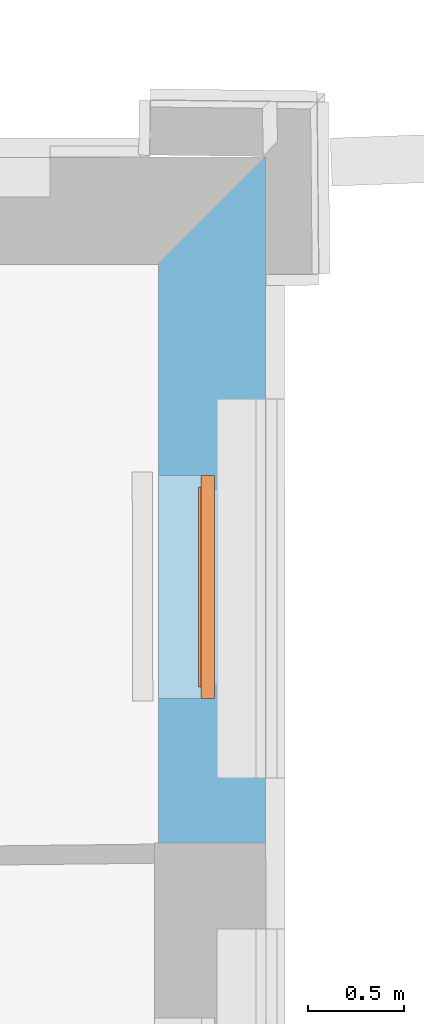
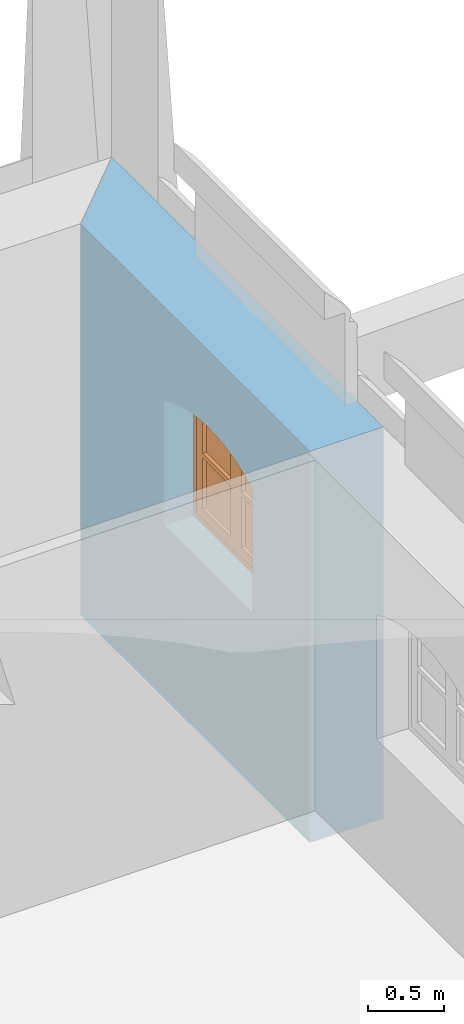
# One storey, part 109 of 196: 1 proxy, 1 opening, plus 1 element that does not belong to this part.
"""IFC2X3 building model written with IfcOpenShell, lengths in metres."""

from ifc_helpers import new_model, entity, si_unit, converted_unit, derived_unit, money_unit, direction, frame, origin_with_axes, place, context, subcontext, project, spatial, polyline, outline, extrude, faceted_brep, material, layer, layer_set, layer_usage, type_object, element, fill, save


model = new_model("IFC2X3")

# Units and contexts
model_context = context("Model", 3, precision=1e-05, world=origin_with_axes(), true_north=direction((0.0, 1.0)))
body_context = subcontext(model_context, "Body", "Model", "MODEL_VIEW")
ifc_project = project(units=[si_unit("LENGTHUNIT", "METRE"), si_unit("AREAUNIT", "SQUARE_METRE"), si_unit("VOLUMEUNIT", "CUBIC_METRE"), converted_unit("PLANEANGLEUNIT", "DEGREE", entity("IfcPlaneAngleMeasure", 0.0174532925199), si_unit("PLANEANGLEUNIT", "RADIAN"), dimensions=[0, 0, 0, 0, 0, 0, 0]), money_unit("EUR"), converted_unit("TIMEUNIT", "Year", entity("IfcTimeMeasure", 31556926.0), si_unit("TIMEUNIT", "SECOND"), dimensions=[0, 0, 1, 0, 0, 0, 0]), si_unit("MASSUNIT", "GRAM", prefix="KILO"), si_unit("THERMODYNAMICTEMPERATUREUNIT", "DEGREE_CELSIUS"), si_unit("LUMINOUSINTENSITYUNIT", "LUMEN"), si_unit("ENERGYUNIT", "JOULE", prefix="MEGA"), derived_unit("THERMALCONDUCTANCEUNIT", [(si_unit("POWERUNIT", "WATT"), 1), (si_unit("LENGTHUNIT", "METRE"), -1), (si_unit("THERMODYNAMICTEMPERATUREUNIT", "KELVIN"), -1)]), derived_unit("SPECIFICHEATCAPACITYUNIT", [(si_unit("ENERGYUNIT", "JOULE"), 1), (si_unit("MASSUNIT", "GRAM", prefix="KILO"), -1), (si_unit("THERMODYNAMICTEMPERATUREUNIT", "KELVIN"), -1)]), derived_unit("MASSDENSITYUNIT", [(si_unit("MASSUNIT", "GRAM", prefix="KILO"), 1), (si_unit("VOLUMEUNIT", "CUBIC_METRE"), -1)])], contexts=[model_context])

# Site, building, storey
site_placement = place(None, origin_with_axes())
site = spatial("IfcSite", under=ifc_project, at=site_placement, Name="Gelände", CompositionType="ELEMENT")
building_placement = place(site_placement, origin_with_axes())
building = spatial("IfcBuilding", under=site, at=building_placement, Name="Gebäude", CompositionType="ELEMENT")
storey_placement = place(building_placement, frame((0.0, 0.0, -3.0), z_axis=(0.0, 0.0, 1.0), x_axis=(1.0, 0.0, 0.0)))
storey = spatial("IfcBuildingStorey", under=building, at=storey_placement, Name="KELLERGESCHOSS", CompositionType="ELEMENT", Elevation=-3.0)

# Wall, opening, proxy
ifc_material = material(Name="05_ALLGEMEIN - TRAGENDE BAUTEILE")
ifc_layer = layer(ifc_material, 0.56, ventilated="UNKNOWN")
ifc_layer_set = layer_set([ifc_layer], Name="05_ALLGEMEIN - TRAGENDE BAUTEILE 0.56")
ifc_layer_usage = layer_usage(ifc_layer_set, "AXIS2", "NEGATIVE", 0.56)
wall_type = type_object("IfcWallType", Name="05_ALLGEMEIN - TRAGENDE BAUTEILE 560", PredefinedType="ELEMENTEDWALL")
wall_placement = place(storey_placement, frame((31.6751488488, 25.5895530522, -0.36), z_axis=(0.0, 0.0, 1.0), x_axis=(-0.000336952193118, 0.999999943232, 0.0)))
wall = element("IfcWallStandardCase", 1, at=wall_placement, inside=storey, type_object=wall_type, material=ifc_layer_usage, Name="Wand-038", ObjectType="ELEMENTEDWALL", context=body_context, shape_type="SweptSolid", body=[
    extrude(outline(polyline([(0.0, 0.0), (3.57874595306, 0.0), (3.01852051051, 0.56), (0.0, 0.56), (0.0, 0.0)])), origin_with_axes(), (0.0, 0.0, 1.0), 3.15),
])
opening_placement = place(wall_placement, frame((1.33445511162, 0.0, 1.39579666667), z_axis=(0.0, 0.0, 1.0), x_axis=(1.0, 0.0, 0.0)))
opening = element("IfcOpeningElement", 2, at=opening_placement, cuts=wall, Name="Fenster-015", context=body_context, shape_type="SweptSolid", body=[
    extrude(outline(polyline([(0.581905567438, 0.0), (0.581905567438, 1.0), (0.471737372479, 1.04926610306), (0.357452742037, 1.08803726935), (0.240048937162, 1.11597517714), (0.120550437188, 1.13283603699), (0.0, 1.13847271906), (-0.120550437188, 1.13283603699), (-0.240048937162, 1.11597517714), (-0.357452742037, 1.08803726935), (-0.471737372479, 1.04926610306), (-0.581905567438, 1.0), (-0.581905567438, 0.0), (0.581905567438, 0.0)])), frame((0.0, 0.266646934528, 0.0), z_axis=(0.0, -1.0, 0.0), x_axis=(1.0, 0.0, 0.0)), (0.0, 0.0, -1.0), 0.853353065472),
    extrude(outline(polyline([(-0.511905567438, 0.0), (-0.511905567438, -0.956074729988), (-0.389248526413, -1.00481559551), (-0.262049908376, -1.04004247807), (-0.131793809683, -1.0613443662), (0.0, -1.06847271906), (0.131793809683, -1.0613443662), (0.262049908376, -1.04004247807), (0.389248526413, -1.00481559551), (0.511905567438, -0.956074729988), (0.511905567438, 0.0), (-0.511905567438, 0.0)])), frame((0.0, 0.266646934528, 0.0), z_axis=(0.0, 1.0, 0.0), x_axis=(1.0, 0.0, 0.0)), (0.0, 0.0, -1.0), 0.826646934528),
])
building_element_proxy_type = type_object("IfcBuildingElementProxyType", Name="F Segment-Abschluss 2-Fl 25", PredefinedType="NOTDEFINED")
proxy_placement = place(opening_placement, frame((-0.581905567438, 0.0, 0.0), z_axis=(0.0, 0.0, 1.0), x_axis=(1.0, 0.0, 0.0)))
proxy = element("IfcBuildingElementProxy", 3, at=proxy_placement, inside=storey, type_object=building_element_proxy_type, Name="Fenster-015", context=body_context, shape_type="Brep", body=[
    faceted_brep([(0.0, 0.266646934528, 0.0), (0.0, 0.301646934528, 0.0), (0.08, 0.301646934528, 0.08), (0.08, 0.266646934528, 0.08), (0.0, 0.266646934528, 1.0), (0.0, 0.301646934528, 1.0), (0.08, 0.301646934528, 0.949656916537), (0.08, 0.266646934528, 0.949656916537)], [[[0, 1, 2, 3]], [[4, 5, 1, 0]], [[1, 5, 6, 2]], [[3, 2, 6, 7]], [[0, 3, 7, 4]], [[7, 6, 5, 4]]]),
    faceted_brep([(1.16381113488, 0.266646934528, 0.0), (1.08381113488, 0.266646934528, 0.08), (1.08381113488, 0.301646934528, 0.08), (1.16381113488, 0.301646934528, 0.0), (1.16381113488, 0.266646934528, 1.0), (1.08381113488, 0.266646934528, 0.949656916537), (1.08381113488, 0.301646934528, 0.949656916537), (1.16381113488, 0.301646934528, 1.0)], [[[0, 1, 2, 3]], [[0, 4, 5, 1]], [[1, 5, 6, 2]], [[3, 2, 6, 7]], [[4, 0, 3, 7]], [[5, 4, 7, 6]]]),
    faceted_brep([(0.0, 0.266646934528, 0.0), (0.0, 0.301646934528, 0.0), (1.16381113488, 0.301646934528, 0.0), (1.16381113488, 0.266646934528, 0.0), (0.08, 0.266646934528, 0.08), (0.08, 0.301646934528, 0.08), (1.08381113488, 0.301646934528, 0.08), (1.08381113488, 0.266646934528, 0.08)], [[[0, 1, 2, 3]], [[4, 5, 1, 0]], [[1, 5, 6, 2]], [[3, 2, 6, 7]], [[0, 3, 7, 4]], [[7, 6, 5, 4]]]),
    faceted_brep([(1.08391113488, 0.266646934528, 0.949656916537), (1.08391113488, 0.301646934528, 0.949656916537), (1.16381113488, 0.301646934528, 1.0), (1.16381113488, 0.266646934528, 1.0), (1.08381113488, 0.266646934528, 0.949656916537), (1.08381113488, 0.301646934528, 0.949656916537), (0.963421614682, 0.301646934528, 0.996854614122), (0.838688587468, 0.301646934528, 1.03095639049), (0.711032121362, 0.301646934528, 1.05157400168), (0.581905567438, 0.301646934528, 1.05847271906), (0.581905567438, 0.301646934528, 1.05857271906), (0.581905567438, 0.301646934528, 1.13847271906), (0.702456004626, 0.301646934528, 1.13283603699), (0.8219545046, 0.301646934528, 1.11597517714), (0.939358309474, 0.301646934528, 1.08803726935), (1.05364293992, 0.301646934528, 1.04926610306), (1.05364293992, 0.266646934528, 1.04926610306), (0.939358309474, 0.266646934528, 1.08803726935), (0.8219545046, 0.266646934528, 1.11597517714), (0.702456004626, 0.266646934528, 1.13283603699), (0.581905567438, 0.266646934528, 1.13847271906), (0.581905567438, 0.266646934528, 1.05857271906), (0.581905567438, 0.266646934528, 1.05847271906), (0.711032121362, 0.266646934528, 1.05157400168), (0.838688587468, 0.266646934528, 1.03095639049), (0.963421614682, 0.266646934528, 0.996854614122)], [[[0, 1, 2, 3]], [[4, 5, 1, 0]], [[1, 5, 6, 7, 8, 9, 10, 11, 12, 13, 14, 15, 2]], [[3, 2, 15, 16]], [[0, 3, 16, 17, 18, 19, 20, 21, 22, 23, 24, 25, 4]], [[25, 6, 5, 4]], [[24, 7, 6, 25]], [[23, 8, 7, 24]], [[22, 9, 8, 23]], [[21, 10, 9, 22]], [[20, 11, 10, 21]], [[19, 12, 11, 20]], [[18, 13, 12, 19]], [[17, 14, 13, 18]], [[16, 15, 14, 17]]]),
    faceted_brep([(0.0799, 0.266646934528, 0.949656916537), (0.0, 0.266646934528, 1.0), (0.0, 0.301646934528, 1.0), (0.0799, 0.301646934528, 0.949656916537), (0.08, 0.266646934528, 0.949656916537), (0.200389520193, 0.266646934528, 0.996854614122), (0.325122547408, 0.266646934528, 1.03095639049), (0.452779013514, 0.266646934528, 1.05157400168), (0.581905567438, 0.266646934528, 1.05847271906), (0.581905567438, 0.266646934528, 1.05857271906), (0.581905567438, 0.266646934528, 1.13847271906), (0.46135513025, 0.266646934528, 1.13283603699), (0.341856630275, 0.266646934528, 1.11597517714), (0.224452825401, 0.266646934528, 1.08803726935), (0.110168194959, 0.266646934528, 1.04926610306), (0.110168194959, 0.301646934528, 1.04926610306), (0.224452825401, 0.301646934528, 1.08803726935), (0.341856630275, 0.301646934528, 1.11597517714), (0.46135513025, 0.301646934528, 1.13283603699), (0.581905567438, 0.301646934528, 1.13847271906), (0.581905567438, 0.301646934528, 1.05857271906), (0.581905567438, 0.301646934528, 1.05847271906), (0.452779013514, 0.301646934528, 1.05157400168), (0.325122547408, 0.301646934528, 1.03095639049), (0.200389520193, 0.301646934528, 0.996854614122), (0.08, 0.301646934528, 0.949656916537)], [[[0, 1, 2, 3]], [[0, 4, 5, 6, 7, 8, 9, 10, 11, 12, 13, 14, 1]], [[1, 14, 15, 2]], [[3, 2, 15, 16, 17, 18, 19, 20, 21, 22, 23, 24, 25]], [[4, 0, 3, 25]], [[5, 4, 25, 24]], [[6, 5, 24, 23]], [[7, 6, 23, 22]], [[8, 7, 22, 21]], [[9, 8, 21, 20]], [[10, 9, 20, 19]], [[11, 10, 19, 18]], [[12, 11, 18, 17]], [[13, 12, 17, 16]], [[14, 13, 16, 15]]]),
    faceted_brep([(0.0, 0.301646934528, 0.0), (0.0, 0.336646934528, 0.0), (0.08, 0.336646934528, 0.08), (0.08, 0.301646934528, 0.08), (0.0, 0.301646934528, 1.0), (0.0, 0.336646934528, 1.0), (0.08, 0.336646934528, 0.949656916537), (0.08, 0.301646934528, 0.949656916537)], [[[0, 1, 2, 3]], [[4, 5, 1, 0]], [[1, 5, 6, 2]], [[3, 2, 6, 7]], [[0, 3, 7, 4]], [[7, 6, 5, 4]]]),
    faceted_brep([(1.16381113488, 0.301646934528, 0.0), (1.08381113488, 0.301646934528, 0.08), (1.08381113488, 0.336646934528, 0.08), (1.16381113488, 0.336646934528, 0.0), (1.16381113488, 0.301646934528, 1.0), (1.08381113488, 0.301646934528, 0.949656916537), (1.08381113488, 0.336646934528, 0.949656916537), (1.16381113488, 0.336646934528, 1.0)], [[[0, 1, 2, 3]], [[0, 4, 5, 1]], [[1, 5, 6, 2]], [[3, 2, 6, 7]], [[4, 0, 3, 7]], [[5, 4, 7, 6]]]),
    faceted_brep([(0.0, 0.301646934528, 0.0), (0.0, 0.336646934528, 0.0), (1.16381113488, 0.336646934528, 0.0), (1.16381113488, 0.301646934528, 0.0), (0.08, 0.301646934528, 0.08), (0.08, 0.336646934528, 0.08), (1.08381113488, 0.336646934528, 0.08), (1.08381113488, 0.301646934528, 0.08)], [[[0, 1, 2, 3]], [[4, 5, 1, 0]], [[1, 5, 6, 2]], [[3, 2, 6, 7]], [[0, 3, 7, 4]], [[7, 6, 5, 4]]]),
    faceted_brep([(1.08391113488, 0.301646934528, 0.949656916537), (1.08391113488, 0.336646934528, 0.949656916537), (1.16381113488, 0.336646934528, 1.0), (1.16381113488, 0.301646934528, 1.0), (1.08381113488, 0.301646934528, 0.949656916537), (1.08381113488, 0.336646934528, 0.949656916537), (0.963421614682, 0.336646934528, 0.996854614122), (0.838688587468, 0.336646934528, 1.03095639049), (0.711032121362, 0.336646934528, 1.05157400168), (0.581905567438, 0.336646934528, 1.05847271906), (0.581905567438, 0.336646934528, 1.05857271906), (0.581905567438, 0.336646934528, 1.13847271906), (0.702456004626, 0.336646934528, 1.13283603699), (0.8219545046, 0.336646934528, 1.11597517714), (0.939358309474, 0.336646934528, 1.08803726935), (1.05364293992, 0.336646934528, 1.04926610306), (1.05364293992, 0.301646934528, 1.04926610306), (0.939358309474, 0.301646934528, 1.08803726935), (0.8219545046, 0.301646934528, 1.11597517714), (0.702456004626, 0.301646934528, 1.13283603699), (0.581905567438, 0.301646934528, 1.13847271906), (0.581905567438, 0.301646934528, 1.05857271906), (0.581905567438, 0.301646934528, 1.05847271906), (0.711032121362, 0.301646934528, 1.05157400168), (0.838688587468, 0.301646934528, 1.03095639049), (0.963421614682, 0.301646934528, 0.996854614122)], [[[0, 1, 2, 3]], [[4, 5, 1, 0]], [[1, 5, 6, 7, 8, 9, 10, 11, 12, 13, 14, 15, 2]], [[3, 2, 15, 16]], [[0, 3, 16, 17, 18, 19, 20, 21, 22, 23, 24, 25, 4]], [[25, 6, 5, 4]], [[24, 7, 6, 25]], [[23, 8, 7, 24]], [[22, 9, 8, 23]], [[21, 10, 9, 22]], [[20, 11, 10, 21]], [[19, 12, 11, 20]], [[18, 13, 12, 19]], [[17, 14, 13, 18]], [[16, 15, 14, 17]]]),
    faceted_brep([(0.0799, 0.301646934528, 0.949656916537), (0.0, 0.301646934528, 1.0), (0.0, 0.336646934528, 1.0), (0.0799, 0.336646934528, 0.949656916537), (0.08, 0.301646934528, 0.949656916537), (0.200389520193, 0.301646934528, 0.996854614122), (0.325122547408, 0.301646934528, 1.03095639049), (0.452779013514, 0.301646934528, 1.05157400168), (0.581905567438, 0.301646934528, 1.05847271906), (0.581905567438, 0.301646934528, 1.05857271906), (0.581905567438, 0.301646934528, 1.13847271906), (0.46135513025, 0.301646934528, 1.13283603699), (0.341856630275, 0.301646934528, 1.11597517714), (0.224452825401, 0.301646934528, 1.08803726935), (0.110168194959, 0.301646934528, 1.04926610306), (0.110168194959, 0.336646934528, 1.04926610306), (0.224452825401, 0.336646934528, 1.08803726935), (0.341856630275, 0.336646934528, 1.11597517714), (0.46135513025, 0.336646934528, 1.13283603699), (0.581905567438, 0.336646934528, 1.13847271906), (0.581905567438, 0.336646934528, 1.05857271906), (0.581905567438, 0.336646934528, 1.05847271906), (0.452779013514, 0.336646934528, 1.05157400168), (0.325122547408, 0.336646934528, 1.03095639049), (0.200389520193, 0.336646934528, 0.996854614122), (0.08, 0.336646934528, 0.949656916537)], [[[0, 1, 2, 3]], [[0, 4, 5, 6, 7, 8, 9, 10, 11, 12, 13, 14, 1]], [[1, 14, 15, 2]], [[3, 2, 15, 16, 17, 18, 19, 20, 21, 22, 23, 24, 25]], [[4, 0, 3, 25]], [[5, 4, 25, 24]], [[6, 5, 24, 23]], [[7, 6, 23, 22]], [[8, 7, 22, 21]], [[9, 8, 21, 20]], [[10, 9, 20, 19]], [[11, 10, 19, 18]], [[12, 11, 18, 17]], [[13, 12, 17, 16]], [[14, 13, 16, 15]]]),
    faceted_brep([(0.06, 0.336646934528, 0.06), (0.06, 0.349646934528, 0.06), (0.14, 0.349646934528, 0.14), (0.14, 0.336646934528, 0.14), (0.06, 0.336646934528, 0.962455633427), (0.06, 0.349646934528, 0.962455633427), (0.14, 0.349646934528, 0.910337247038), (0.14, 0.336646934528, 0.910337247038)], [[[0, 1, 2, 3]], [[4, 5, 1, 0]], [[1, 5, 6, 2]], [[3, 2, 6, 7]], [[0, 3, 7, 4]], [[7, 6, 5, 4]]]),
    faceted_brep([(0.571905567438, 0.336646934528, 0.06), (0.571905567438, 0.349646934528, 0.06), (0.571905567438, 0.349646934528, 1.07843213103), (0.571905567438, 0.336646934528, 1.07843213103), (0.511905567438, 0.336646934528, 0.14), (0.511905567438, 0.349646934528, 0.14), (0.511905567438, 0.349646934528, 0.99634385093), (0.511905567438, 0.336646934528, 0.99634385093)], [[[0, 1, 2, 3]], [[4, 5, 1, 0]], [[1, 5, 6, 2]], [[3, 2, 6, 7]], [[0, 3, 7, 4]], [[7, 6, 5, 4]]]),
    faceted_brep([(0.06, 0.336646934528, 0.06), (0.06, 0.349646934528, 0.06), (0.08, 0.349646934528, 0.06), (0.08, 0.336646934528, 0.06), (0.14, 0.336646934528, 0.14), (0.14, 0.349646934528, 0.14), (0.511905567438, 0.349646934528, 0.14), (0.571905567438, 0.349646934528, 0.06), (0.571905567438, 0.336646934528, 0.06), (0.511905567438, 0.336646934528, 0.14)], [[[0, 1, 2, 3]], [[4, 5, 1, 0]], [[1, 5, 6, 7, 2]], [[3, 2, 7, 8]], [[0, 3, 8, 9, 4]], [[9, 6, 5, 4]], [[8, 7, 6, 9]]]),
    faceted_brep([(0.08, 0.336646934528, 0.949656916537), (0.08, 0.349646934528, 0.949656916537), (0.14, 0.349646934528, 0.910337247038), (0.14, 0.336646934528, 0.910337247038), (0.06, 0.336646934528, 0.962455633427), (0.06, 0.349646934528, 0.962455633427), (0.157629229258, 0.349646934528, 1.0031058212), (0.258385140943, 0.349646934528, 1.0352329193), (0.361525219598, 0.349646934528, 1.05860016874), (0.466289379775, 0.349646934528, 1.07303536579), (0.571905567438, 0.349646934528, 1.07843213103), (0.511905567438, 0.349646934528, 0.99634385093), (0.41656313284, 0.349646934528, 0.98654453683), (0.322365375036, 0.349646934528, 0.968853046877), (0.229964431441, 0.349646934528, 0.943391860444), (0.229964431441, 0.336646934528, 0.943391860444), (0.322365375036, 0.336646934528, 0.968853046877), (0.41656313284, 0.336646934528, 0.98654453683), (0.511905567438, 0.336646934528, 0.99634385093), (0.571905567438, 0.336646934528, 1.07843213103), (0.466289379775, 0.336646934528, 1.07303536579), (0.361525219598, 0.336646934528, 1.05860016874), (0.258385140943, 0.336646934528, 1.0352329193), (0.157629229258, 0.336646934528, 1.0031058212)], [[[0, 1, 2, 3]], [[4, 5, 1, 0]], [[1, 5, 6, 7, 8, 9, 10, 11, 12, 13, 14, 2]], [[3, 2, 14, 15]], [[0, 3, 15, 16, 17, 18, 19, 20, 21, 22, 23, 4]], [[23, 6, 5, 4]], [[22, 7, 6, 23]], [[21, 8, 7, 22]], [[20, 9, 8, 21]], [[19, 10, 9, 20]], [[18, 11, 10, 19]], [[17, 12, 11, 18]], [[16, 13, 12, 17]], [[15, 14, 13, 16]]]),
    faceted_brep([(0.08, 0.279646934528, 0.08), (0.08, 0.336646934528, 0.08), (0.14, 0.336646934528, 0.14), (0.14, 0.279646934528, 0.14), (0.08, 0.279646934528, 0.949656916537), (0.08, 0.336646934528, 0.949656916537), (0.14, 0.336646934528, 0.910337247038), (0.14, 0.279646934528, 0.910337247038)], [[[0, 1, 2, 3]], [[4, 5, 1, 0]], [[1, 5, 6, 2]], [[3, 2, 6, 7]], [[0, 3, 7, 4]], [[7, 6, 5, 4]]]),
    faceted_brep([(0.591905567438, 0.279646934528, 0.08), (0.591905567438, 0.336646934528, 0.08), (0.591905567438, 0.336646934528, 1.05843146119), (0.591905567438, 0.279646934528, 1.05843146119), (0.511905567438, 0.279646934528, 0.14), (0.511905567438, 0.336646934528, 0.14), (0.511905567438, 0.336646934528, 0.99634385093), (0.511905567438, 0.279646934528, 0.99634385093)], [[[0, 1, 2, 3]], [[4, 5, 1, 0]], [[1, 5, 6, 2]], [[3, 2, 6, 7]], [[0, 3, 7, 4]], [[7, 6, 5, 4]]]),
    faceted_brep([(0.08, 0.279646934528, 0.08), (0.08, 0.336646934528, 0.08), (0.571905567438, 0.336646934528, 0.08), (0.571905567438, 0.279646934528, 0.08), (0.14, 0.279646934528, 0.14), (0.14, 0.336646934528, 0.14), (0.511905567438, 0.336646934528, 0.14), (0.591905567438, 0.336646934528, 0.08), (0.591905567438, 0.279646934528, 0.08), (0.511905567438, 0.279646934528, 0.14)], [[[0, 1, 2, 3]], [[4, 5, 1, 0]], [[1, 5, 6, 7, 2]], [[3, 2, 7, 8]], [[0, 3, 8, 9, 4]], [[9, 6, 5, 4]], [[8, 7, 6, 9]]]),
    faceted_brep([(0.08, 0.279646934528, 0.949656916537), (0.08, 0.336646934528, 0.949656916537), (0.14, 0.336646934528, 0.910337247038), (0.14, 0.279646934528, 0.910337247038), (0.177804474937, 0.279646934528, 0.989116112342), (0.177804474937, 0.336646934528, 0.989116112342), (0.278669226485, 0.336646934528, 1.01992269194), (0.381830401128, 0.336646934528, 1.04184335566), (0.48650675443, 0.336646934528, 1.05471209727), (0.591905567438, 0.336646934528, 1.05843146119), (0.511905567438, 0.336646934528, 0.99634385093), (0.41656313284, 0.336646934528, 0.98654453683), (0.322365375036, 0.336646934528, 0.968853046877), (0.229964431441, 0.336646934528, 0.943391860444), (0.229964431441, 0.279646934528, 0.943391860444), (0.322365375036, 0.279646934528, 0.968853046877), (0.41656313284, 0.279646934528, 0.98654453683), (0.511905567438, 0.279646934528, 0.99634385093), (0.591905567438, 0.279646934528, 1.05843146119), (0.48650675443, 0.279646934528, 1.05471209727), (0.381830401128, 0.279646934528, 1.04184335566), (0.278669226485, 0.279646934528, 1.01992269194)], [[[0, 1, 2, 3]], [[4, 5, 1, 0]], [[1, 5, 6, 7, 8, 9, 10, 11, 12, 13, 2]], [[3, 2, 13, 14]], [[0, 3, 14, 15, 16, 17, 18, 19, 20, 21, 4]], [[21, 6, 5, 4]], [[20, 7, 6, 21]], [[19, 8, 7, 20]], [[18, 9, 8, 19]], [[17, 10, 9, 18]], [[16, 11, 10, 17]], [[15, 12, 11, 16]], [[14, 13, 12, 15]]]),
    faceted_brep([(0.14, 0.309646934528, 0.14), (0.14, 0.319646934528, 0.14), (0.511905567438, 0.319646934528, 0.14), (0.511905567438, 0.309646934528, 0.14), (0.14, 0.309646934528, 0.910337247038), (0.14, 0.319646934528, 0.910337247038), (0.229964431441, 0.319646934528, 0.943391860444), (0.322365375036, 0.319646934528, 0.968853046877), (0.41656313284, 0.319646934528, 0.98654453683), (0.511905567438, 0.319646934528, 0.99634385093), (0.511905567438, 0.309646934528, 0.99634385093), (0.41656313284, 0.309646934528, 0.98654453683), (0.322365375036, 0.309646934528, 0.968853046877), (0.229964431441, 0.309646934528, 0.943391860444)], [[[0, 1, 2, 3]], [[4, 5, 1, 0]], [[1, 5, 6, 7, 8, 9, 2]], [[3, 2, 9, 10]], [[0, 3, 10, 11, 12, 13, 4]], [[13, 6, 5, 4]], [[12, 7, 6, 13]], [[11, 8, 7, 12]], [[10, 9, 8, 11]]]),
    faceted_brep([(0.14, 0.279646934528, 0.550671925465), (0.14, 0.314646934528, 0.550671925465), (0.511905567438, 0.314646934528, 0.550671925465), (0.511905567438, 0.279646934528, 0.550671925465), (0.14, 0.279646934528, 0.585671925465), (0.14, 0.314646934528, 0.585671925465), (0.511905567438, 0.314646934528, 0.585671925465), (0.511905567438, 0.279646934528, 0.585671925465)], [[[0, 1, 2, 3]], [[4, 5, 1, 0]], [[1, 5, 6, 2]], [[3, 2, 6, 7]], [[0, 3, 7, 4]], [[7, 6, 5, 4]]]),
    faceted_brep([(0.14, 0.314646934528, 0.550671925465), (0.14, 0.349646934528, 0.550671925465), (0.511905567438, 0.349646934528, 0.550671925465), (0.511905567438, 0.314646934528, 0.550671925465), (0.14, 0.314646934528, 0.585671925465), (0.14, 0.349646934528, 0.585671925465), (0.511905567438, 0.349646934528, 0.585671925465), (0.511905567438, 0.314646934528, 0.585671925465)], [[[0, 1, 2, 3]], [[4, 5, 1, 0]], [[1, 5, 6, 2]], [[3, 2, 6, 7]], [[0, 3, 7, 4]], [[7, 6, 5, 4]]]),
    faceted_brep([(1.10381113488, 0.336646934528, 0.06), (1.02381113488, 0.336646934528, 0.14), (1.02381113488, 0.349646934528, 0.14), (1.10381113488, 0.349646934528, 0.06), (1.10381113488, 0.336646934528, 0.962455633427), (1.02381113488, 0.336646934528, 0.910337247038), (1.02381113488, 0.349646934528, 0.910337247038), (1.10381113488, 0.349646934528, 0.962455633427)], [[[0, 1, 2, 3]], [[0, 4, 5, 1]], [[1, 5, 6, 2]], [[3, 2, 6, 7]], [[4, 0, 3, 7]], [[5, 4, 7, 6]]]),
    faceted_brep([(0.571905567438, 0.336646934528, 0.06), (0.571905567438, 0.336646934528, 1.07843213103), (0.571905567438, 0.349646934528, 1.07843213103), (0.571905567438, 0.349646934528, 0.06), (0.651905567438, 0.336646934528, 0.14), (0.651905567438, 0.336646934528, 0.99634385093), (0.651905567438, 0.349646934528, 0.99634385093), (0.651905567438, 0.349646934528, 0.14)], [[[0, 1, 2, 3]], [[0, 4, 5, 1]], [[1, 5, 6, 2]], [[3, 2, 6, 7]], [[4, 0, 3, 7]], [[5, 4, 7, 6]]]),
    faceted_brep([(1.10381113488, 0.336646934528, 0.06), (1.08381113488, 0.336646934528, 0.06), (1.08381113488, 0.349646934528, 0.06), (1.10381113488, 0.349646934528, 0.06), (1.02381113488, 0.336646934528, 0.14), (0.651905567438, 0.336646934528, 0.14), (0.571905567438, 0.336646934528, 0.06), (0.591905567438, 0.336646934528, 0.06), (0.591905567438, 0.349646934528, 0.06), (0.571905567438, 0.349646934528, 0.06), (0.651905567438, 0.349646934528, 0.14), (1.02381113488, 0.349646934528, 0.14)], [[[0, 1, 2, 3]], [[0, 4, 5, 6, 7, 1]], [[1, 7, 8, 2]], [[3, 2, 8, 9, 10, 11]], [[4, 0, 3, 11]], [[5, 4, 11, 10]], [[6, 5, 10, 9]], [[7, 6, 9, 8]]]),
    faceted_brep([(1.08381113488, 0.336646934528, 0.949656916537), (1.02381113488, 0.336646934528, 0.910337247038), (1.02381113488, 0.349646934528, 0.910337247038), (1.08381113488, 0.349646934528, 0.949656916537), (1.10381113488, 0.336646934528, 0.962455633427), (1.00242434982, 0.336646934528, 1.0044773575), (0.897699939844, 0.336646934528, 1.0373087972), (0.79046909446, 0.336646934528, 1.06068937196), (0.681582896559, 0.336646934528, 1.07443351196), (0.571905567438, 0.336646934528, 1.07843213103), (0.651905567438, 0.336646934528, 0.99634385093), (0.747248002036, 0.336646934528, 0.98654453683), (0.841445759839, 0.336646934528, 0.968853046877), (0.933846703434, 0.336646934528, 0.943391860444), (0.933846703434, 0.349646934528, 0.943391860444), (0.841445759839, 0.349646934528, 0.968853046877), (0.747248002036, 0.349646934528, 0.98654453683), (0.651905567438, 0.349646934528, 0.99634385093), (0.571905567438, 0.349646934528, 1.07843213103), (0.681582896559, 0.349646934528, 1.07443351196), (0.79046909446, 0.349646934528, 1.06068937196), (0.897699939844, 0.349646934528, 1.0373087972), (1.00242434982, 0.349646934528, 1.0044773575), (1.10381113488, 0.349646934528, 0.962455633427)], [[[0, 1, 2, 3]], [[0, 4, 5, 6, 7, 8, 9, 10, 11, 12, 13, 1]], [[1, 13, 14, 2]], [[3, 2, 14, 15, 16, 17, 18, 19, 20, 21, 22, 23]], [[4, 0, 3, 23]], [[5, 4, 23, 22]], [[6, 5, 22, 21]], [[7, 6, 21, 20]], [[8, 7, 20, 19]], [[9, 8, 19, 18]], [[10, 9, 18, 17]], [[11, 10, 17, 16]], [[12, 11, 16, 15]], [[13, 12, 15, 14]]]),
    faceted_brep([(1.08381113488, 0.279646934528, 0.08), (1.02381113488, 0.279646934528, 0.14), (1.02381113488, 0.336646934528, 0.14), (1.08381113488, 0.336646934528, 0.08), (1.08381113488, 0.279646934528, 0.949656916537), (1.02381113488, 0.279646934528, 0.910337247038), (1.02381113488, 0.336646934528, 0.910337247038), (1.08381113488, 0.336646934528, 0.949656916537)], [[[0, 1, 2, 3]], [[0, 4, 5, 1]], [[1, 5, 6, 2]], [[3, 2, 6, 7]], [[4, 0, 3, 7]], [[5, 4, 7, 6]]]),
    faceted_brep([(0.591905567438, 0.279646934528, 0.08), (0.591905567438, 0.279646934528, 1.05843146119), (0.591905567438, 0.336646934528, 1.05843146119), (0.591905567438, 0.336646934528, 0.08), (0.651905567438, 0.279646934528, 0.14), (0.651905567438, 0.279646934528, 0.99634385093), (0.651905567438, 0.336646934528, 0.99634385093), (0.651905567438, 0.336646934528, 0.14)], [[[0, 1, 2, 3]], [[0, 4, 5, 1]], [[1, 5, 6, 2]], [[3, 2, 6, 7]], [[4, 0, 3, 7]], [[5, 4, 7, 6]]]),
    faceted_brep([(1.08381113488, 0.279646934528, 0.08), (0.591905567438, 0.279646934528, 0.08), (0.591905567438, 0.336646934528, 0.08), (1.08381113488, 0.336646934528, 0.08), (1.02381113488, 0.279646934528, 0.14), (0.651905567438, 0.279646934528, 0.14), (0.651905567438, 0.336646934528, 0.14), (1.02381113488, 0.336646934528, 0.14)], [[[0, 1, 2, 3]], [[0, 4, 5, 1]], [[1, 5, 6, 2]], [[3, 2, 6, 7]], [[4, 0, 3, 7]], [[5, 4, 7, 6]]]),
    faceted_brep([(1.08381113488, 0.279646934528, 0.949656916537), (1.02381113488, 0.279646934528, 0.910337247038), (1.02381113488, 0.336646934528, 0.910337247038), (1.08381113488, 0.336646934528, 0.949656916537), (0.98977557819, 0.279646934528, 0.987776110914), (0.892880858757, 0.279646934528, 1.01789541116), (0.79380620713, 0.279646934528, 1.03980368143), (0.693246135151, 0.279646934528, 1.05334734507), (0.591905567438, 0.279646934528, 1.05843146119), (0.651905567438, 0.279646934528, 0.99634385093), (0.747248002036, 0.279646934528, 0.98654453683), (0.841445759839, 0.279646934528, 0.968853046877), (0.933846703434, 0.279646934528, 0.943391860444), (0.933846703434, 0.336646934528, 0.943391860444), (0.841445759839, 0.336646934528, 0.968853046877), (0.747248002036, 0.336646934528, 0.98654453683), (0.651905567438, 0.336646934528, 0.99634385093), (0.591905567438, 0.336646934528, 1.05843146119), (0.693246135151, 0.336646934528, 1.05334734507), (0.79380620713, 0.336646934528, 1.03980368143), (0.892880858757, 0.336646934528, 1.01789541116), (0.98977557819, 0.336646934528, 0.987776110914)], [[[0, 1, 2, 3]], [[0, 4, 5, 6, 7, 8, 9, 10, 11, 12, 1]], [[1, 12, 13, 2]], [[3, 2, 13, 14, 15, 16, 17, 18, 19, 20, 21]], [[4, 0, 3, 21]], [[5, 4, 21, 20]], [[6, 5, 20, 19]], [[7, 6, 19, 18]], [[8, 7, 18, 17]], [[9, 8, 17, 16]], [[10, 9, 16, 15]], [[11, 10, 15, 14]], [[12, 11, 14, 13]]]),
    faceted_brep([(1.02381113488, 0.309646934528, 0.14), (0.651905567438, 0.309646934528, 0.14), (0.651905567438, 0.319646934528, 0.14), (1.02381113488, 0.319646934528, 0.14), (1.02381113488, 0.309646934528, 0.910337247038), (0.933846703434, 0.309646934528, 0.943391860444), (0.841445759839, 0.309646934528, 0.968853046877), (0.747248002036, 0.309646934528, 0.98654453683), (0.651905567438, 0.309646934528, 0.99634385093), (0.651905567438, 0.319646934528, 0.99634385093), (0.747248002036, 0.319646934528, 0.98654453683), (0.841445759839, 0.319646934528, 0.968853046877), (0.933846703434, 0.319646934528, 0.943391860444), (1.02381113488, 0.319646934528, 0.910337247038)], [[[0, 1, 2, 3]], [[0, 4, 5, 6, 7, 8, 1]], [[1, 8, 9, 2]], [[3, 2, 9, 10, 11, 12, 13]], [[4, 0, 3, 13]], [[5, 4, 13, 12]], [[6, 5, 12, 11]], [[7, 6, 11, 10]], [[8, 7, 10, 9]]]),
    faceted_brep([(1.02381113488, 0.279646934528, 0.550671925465), (0.651905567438, 0.279646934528, 0.550671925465), (0.651905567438, 0.314646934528, 0.550671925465), (1.02381113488, 0.314646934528, 0.550671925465), (1.02381113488, 0.279646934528, 0.585671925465), (0.651905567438, 0.279646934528, 0.585671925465), (0.651905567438, 0.314646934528, 0.585671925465), (1.02381113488, 0.314646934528, 0.585671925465)], [[[0, 1, 2, 3]], [[0, 4, 5, 1]], [[1, 5, 6, 2]], [[3, 2, 6, 7]], [[4, 0, 3, 7]], [[5, 4, 7, 6]]]),
    faceted_brep([(1.02381113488, 0.314646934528, 0.550671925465), (0.651905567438, 0.314646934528, 0.550671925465), (0.651905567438, 0.349646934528, 0.550671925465), (1.02381113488, 0.349646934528, 0.550671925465), (1.02381113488, 0.314646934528, 0.585671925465), (0.651905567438, 0.314646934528, 0.585671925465), (0.651905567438, 0.349646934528, 0.585671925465), (1.02381113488, 0.349646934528, 0.585671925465)], [[[0, 1, 2, 3]], [[0, 4, 5, 1]], [[1, 5, 6, 2]], [[3, 2, 6, 7]], [[4, 0, 3, 7]], [[5, 4, 7, 6]]]),
])
fill(opening, proxy)

save(model, "model.ifc")
